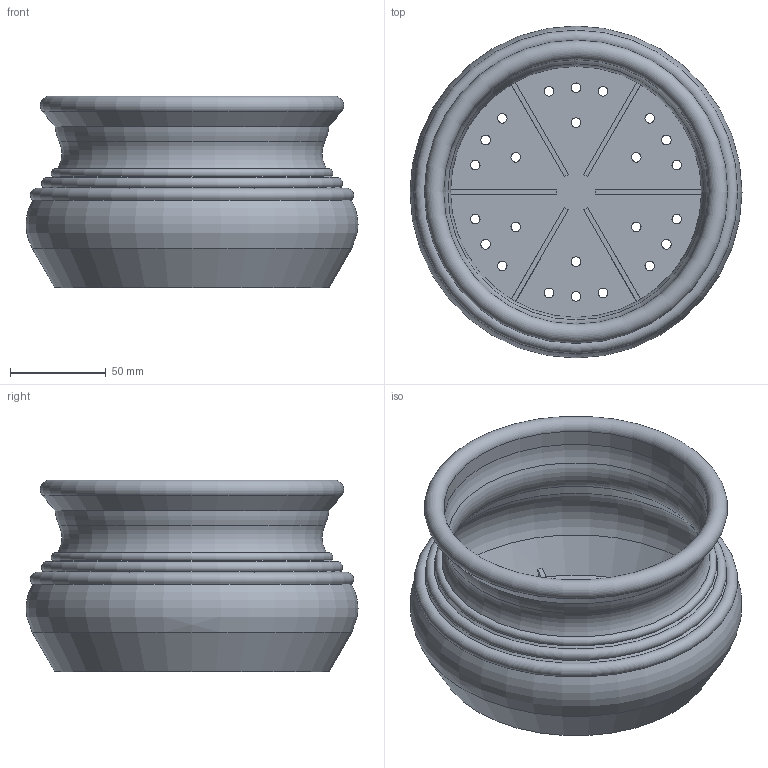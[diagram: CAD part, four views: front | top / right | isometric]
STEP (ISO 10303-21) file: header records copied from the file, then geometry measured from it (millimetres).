
FILE_DESCRIPTION(/* description */ (''),/* implementation_level */ '2;1');
FILE_NAME(/* name */ 'LR2406-S25-H100-D175_step.step',/* time_stamp */ '2024-02-01T11:23:21+01:00',/* author */ (''),/* organization */ (''),/* preprocessor_version */ 'ST-DEVELOPER v20',/* originating_system */ 'Autodesk Translation Framework v12.20.1.177',/* authorisation */ '');
FILE_SCHEMA (('AUTOMOTIVE_DESIGN { 1 0 10303 214 3 1 1 }'));
Length unit declared in the file: millimetre
Products named in the file (1): LR2406-S25-H100-D175
Bounding box: 173 x 173 x 100 mm (x, y, z)
Volume: 209238.7 mm3; surface area: 145568.1 mm2
Topology: 1 solids, 1 shells, 67 faces, 179 edges, 114 vertices
Faces by surface type: cylinder 31, plane 20, torus 10, cone 6
Full cylindrical faces by diameter (mm): 5 x24, 138 x1
Entity records: 2261 total; most frequent: DIRECTION 415, CARTESIAN_POINT 361, ORIENTED_EDGE 358, EDGE_CURVE 179, AXIS2_PLACEMENT_3D 168, EDGE_LOOP 115, VERTEX_POINT 114, CIRCLE 100
